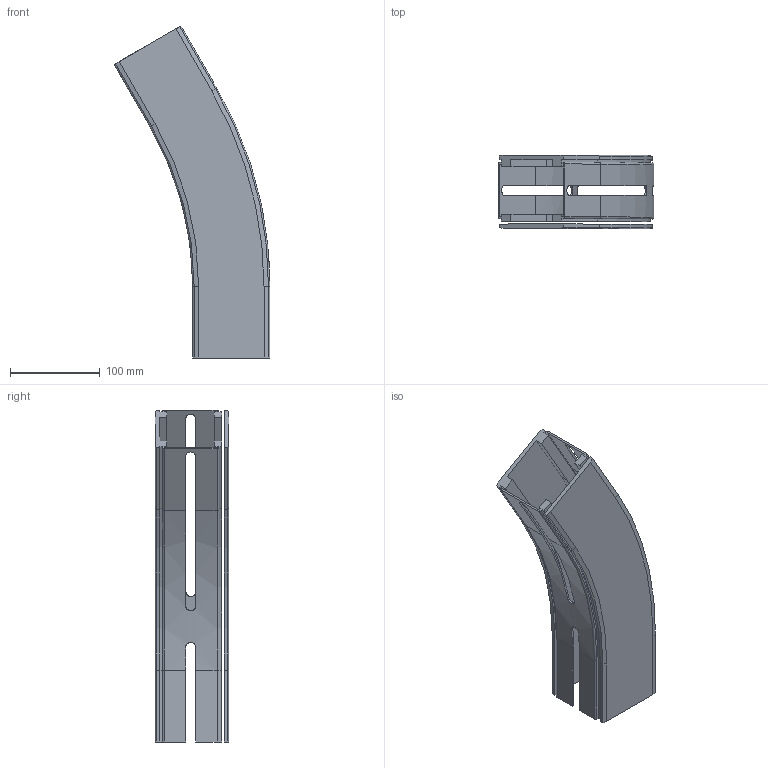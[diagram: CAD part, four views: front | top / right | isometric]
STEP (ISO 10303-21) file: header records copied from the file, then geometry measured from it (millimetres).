
FILE_DESCRIPTION(/* description */ ('GLIDKURVA SERIE 530'),/* implementation_level */ '2;1');
FILE_NAME(/* name */ '530-5375+830-2000-01.stp',/* time_stamp */ '2022-09-20T15:07:02+02:00',/* author */ ('Mathias.Dore'),/* organization */ ('CARRYLINE'),/* preprocessor_version */ 'ST-DEVELOPER v19.2',/* originating_system */ 'Autodesk Inventor 2023',/* authorisation */ '');
FILE_SCHEMA (('AUTOMOTIVE_DESIGN { 1 0 10303 214 3 1 1 }'));
Length unit declared in the file: millimetre
Products named in the file (1): 530-5375+830-2000-01
Bounding box: 173.83 x 82 x 370.78 mm (x, y, z)
Volume: 534310.3 mm3; surface area: 257078.1 mm2
Topology: 2 solids, 2 shells, 163 faces, 458 edges, 300 vertices
Faces by surface type: plane 107, cylinder 30, bspline 18, torus 4, cone 4
Entity records: 5597 total; most frequent: CARTESIAN_POINT 1328, ORIENTED_EDGE 916, DIRECTION 798, EDGE_CURVE 458, LINE 338, VECTOR 338, VERTEX_POINT 300, AXIS2_PLACEMENT_3D 230
